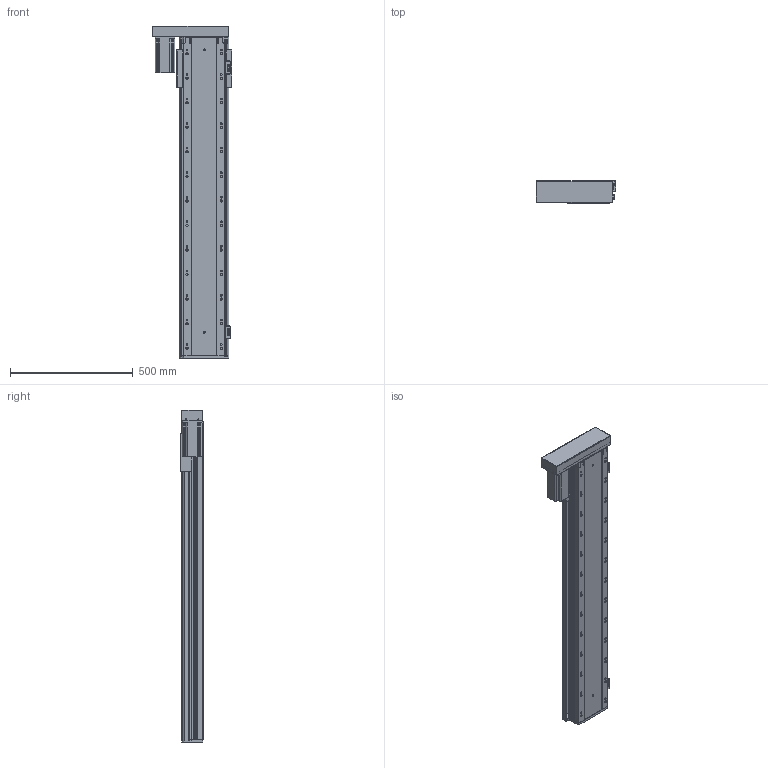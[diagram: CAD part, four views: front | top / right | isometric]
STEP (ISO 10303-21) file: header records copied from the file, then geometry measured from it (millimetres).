
FILE_DESCRIPTION (( 'STEP AP203' ), '1' );
FILE_NAME ('RY170FB-L2020-300-LK.SLDASM_1050.step', '2021-02-23T03:03:02', ( '盈信电脑' ), ( '东莞市道滘镇水果街19号' ), 'SwSTEP 2.0', 'SolidWorks 2012', '' );
FILE_SCHEMA (( 'CONFIG_CONTROL_DESIGN' ));
Length unit declared in the file: millimetre
Products named in the file (16): RY170FB-L2020-300-LK.SLDASM_1050; RY170FB-酘衵殏萇儂欶750W; RY170FB-左右折电机安装板750W; RY140-674嫖萇耀輸; RY140FB-674嫖萇覜茼え; RY170FB-300蛌殏奻裔-LK_1050; RY170FB-綴裔啣; RY140直线电机感应器674光电安装座; 覜茼ん674; RY170FB-铝滑块(25丝杆）; RY170FB-转折电机端支撑座(7002); 怢湛750W萇儂ㄗ80遺ㄘ; 滅袉蝶18-10; RY170FB-300蛌殏倰第菁釱-LK_1050; 滅袉蝶18-28
Assembly tree (18 placements, depth 3):
  RY170FB-L2020-300-LK.SLDASM_1050
    RY170FB-300蛌殏倰第菁釱-LK_1050
    滅袉蝶18-28
    滅袉蝶18-10
    RY170FB-转折电机端支撑座(7002)
    怢湛750W萇儂ㄗ80遺ㄘ
    RY170FB-铝滑块(25丝杆）
    RY170FB-綴裔啣
    RY170FB-300蛌殏奻裔-LK_1050
    RY140-674嫖萇耀輸
      覜茼ん674  x2
      RY140直线电机感应器674光电安装座
    RY140-674嫖萇耀輸
      覜茼ん674
      RY140直线电机感应器674光电安装座
    RY140FB-674嫖萇覜茼え
    RY170FB-左右折电机安装板750W
    RY170FB-酘衵殏萇儂欶750W
Bounding box: 323.95 x 90.5 x 1352.7 mm (x, y, z)
Volume: 8129059.4 mm3; surface area: 2390967 mm2
Topology: 16 solids, 16 shells, 1785 faces, 5206 edges, 3308 vertices
Faces by surface type: cylinder 995, plane 602, cone 180, bspline 8
Entity records: 59407 total; most frequent: CARTESIAN_POINT 15378, ORIENTED_EDGE 9104, DIRECTION 8550, EDGE_CURVE 4552, AXIS2_PLACEMENT_3D 3142, VERTEX_POINT 2988, LINE 2266, VECTOR 2266
